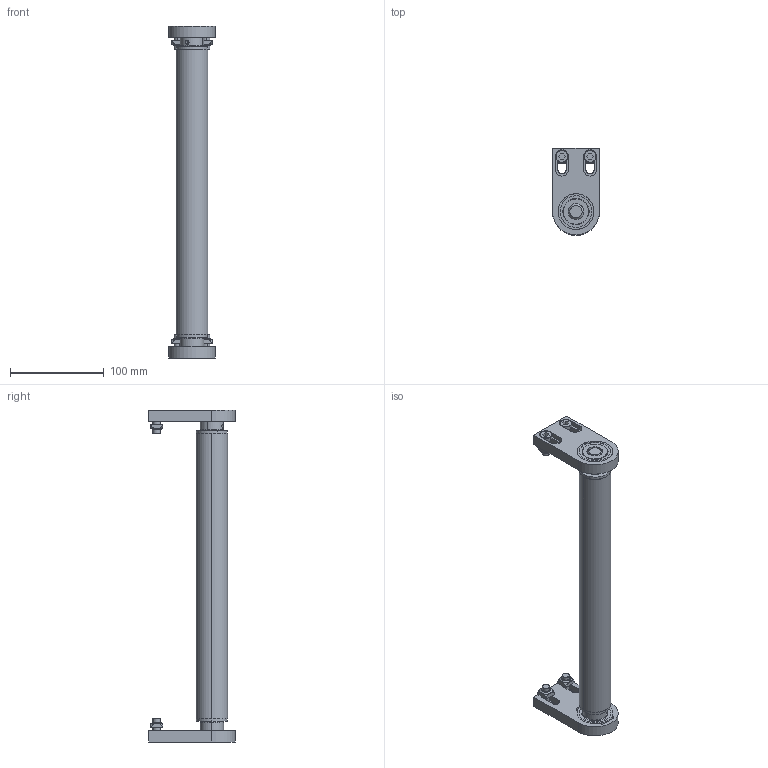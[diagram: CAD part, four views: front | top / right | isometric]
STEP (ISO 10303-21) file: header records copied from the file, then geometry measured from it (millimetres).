
FILE_DESCRIPTION (( 'STEP AP203' ), '1' );
FILE_NAME ('084.050.KSS.300.STEP', '2019-07-30T06:50:41', ( '' ), ( '' ), 'SwSTEP 2.0', 'SolidWorks 2018', '' );
FILE_SCHEMA (( 'CONFIG_CONTROL_DESIGN' ));
Length unit declared in the file: millimetre
Products named in the file (8): 084.802.013-2; 084.802.017_084.802.017; 084.301.000 VITI ALUSIC_084.301.003; 084.802.029-305; 084.802.028; 084.050.KSS.300; 084.302.000 DADI ALUSIC 13x13-1_084.302.004; 084.802.014
Assembly tree (17 placements, depth 2):
  084.050.KSS.300
    084.802.029-305
    084.301.000 VITI ALUSIC_084.301.003  x4
    084.302.000 DADI ALUSIC 13x13-1_084.302.004  x4
    084.802.017_084.802.017  x2
    084.802.028  x2
    084.802.014  x2
    084.802.013-2  x2
Bounding box: 50 x 92.5 x 355 mm (x, y, z)
Volume: 222378.8 mm3; surface area: 134433.8 mm2
Topology: 19 solids, 21 shells, 384 faces, 910 edges, 582 vertices
Faces by surface type: plane 142, cylinder 134, torus 52, cone 32, bspline 16, sphere 8
Entity records: 5980 total; most frequent: CARTESIAN_POINT 1263, DIRECTION 820, ORIENTED_EDGE 700, EDGE_CURVE 350, AXIS2_PLACEMENT_3D 339, VERTEX_POINT 224, EDGE_LOOP 182, CIRCLE 170
